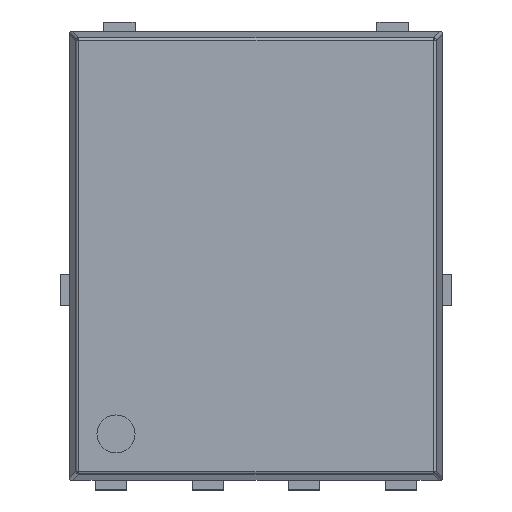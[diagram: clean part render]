
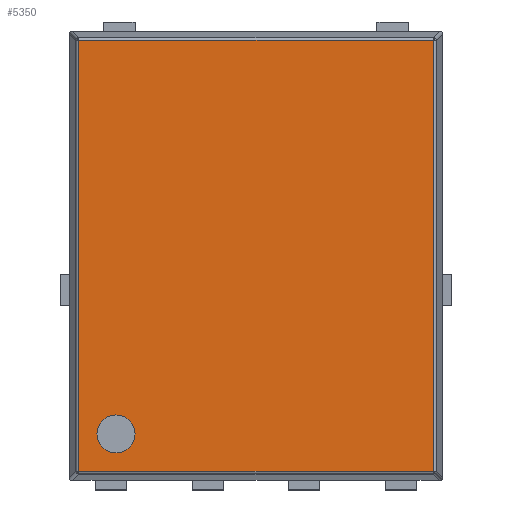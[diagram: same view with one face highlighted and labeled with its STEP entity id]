
A CAD part, top view. The second image highlights one B-rep face of the part: STEP entity #5350.
In plain terms, the highlighted planar face has unit normal (0, 0, 1).
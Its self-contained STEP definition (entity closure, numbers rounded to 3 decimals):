
#32 = DIRECTION ( 'NONE',  ( 1., 0., 0. ) ) ;
#551 = LINE ( 'NONE', #5649, #5530 ) ;
#681 = VECTOR ( 'NONE', #5651, 1000. ) ;
#1210 = CARTESIAN_POINT ( 'NONE',  ( 0., 2.332, 1.1 ) ) ;
#1633 = VECTOR ( 'NONE', #5858, 1000. ) ;
#1683 = DIRECTION ( 'NONE',  ( 1., 0., 0. ) ) ;
#1722 = DIRECTION ( 'NONE',  ( 0., 0., 1. ) ) ;
#1746 = LINE ( 'NONE', #1210, #681 ) ;
#1843 = LINE ( 'NONE', #6393, #6030 ) ;
#1850 = ORIENTED_EDGE ( 'NONE', *, *, #7615, .T. ) ;
#2112 = VERTEX_POINT ( 'NONE', #3678 ) ;
#2448 = EDGE_CURVE ( 'NONE', #4940, #3165, #1746, .T. ) ;
#2651 = EDGE_CURVE ( 'NONE', #4813, #2112, #1843, .T. ) ;
#2796 = ORIENTED_EDGE ( 'NONE', *, *, #4420, .T. ) ;
#3029 = CARTESIAN_POINT ( 'NONE',  ( 0., 2.45, 1.1 ) ) ;
#3165 = VERTEX_POINT ( 'NONE', #8183 ) ;
#3645 = CARTESIAN_POINT ( 'NONE',  ( -2.832, -2.332, 1.1 ) ) ;
#3678 = CARTESIAN_POINT ( 'NONE',  ( 2.832, -2.332, 1.1 ) ) ;
#4392 = ORIENTED_EDGE ( 'NONE', *, *, #2651, .T. ) ;
#4420 = EDGE_CURVE ( 'NONE', #2112, #4940, #7736, .T. ) ;
#4518 = CARTESIAN_POINT ( 'NONE',  ( 2.832, 2.332, 1.1 ) ) ;
#4595 = PLANE ( 'NONE',  #4929 ) ;
#4752 = FACE_OUTER_BOUND ( 'NONE', #6398, .T. ) ;
#4813 = VERTEX_POINT ( 'NONE', #3645 ) ;
#4929 = AXIS2_PLACEMENT_3D ( 'NONE', #3029, #1722, #1683 ) ;
#4940 = VERTEX_POINT ( 'NONE', #4518 ) ;
#5133 = CARTESIAN_POINT ( 'NONE',  ( 2.832, 2.45, 1.1 ) ) ;
#5350 = ADVANCED_FACE ( 'NONE', ( #4752 ), #4595, .T. ) ;
#5530 = VECTOR ( 'NONE', #8182, 1000. ) ;
#5567 = ORIENTED_EDGE ( 'NONE', *, *, #2448, .T. ) ;
#5649 = CARTESIAN_POINT ( 'NONE',  ( -2.832, 2.45, 1.1 ) ) ;
#5651 = DIRECTION ( 'NONE',  ( -1., 0., 0. ) ) ;
#5858 = DIRECTION ( 'NONE',  ( 0., 1., 0. ) ) ;
#6030 = VECTOR ( 'NONE', #32, 1000. ) ;
#6393 = CARTESIAN_POINT ( 'NONE',  ( 0., -2.332, 1.1 ) ) ;
#6398 = EDGE_LOOP ( 'NONE', ( #5567, #1850, #4392, #2796 ) ) ;
#7615 = EDGE_CURVE ( 'NONE', #3165, #4813, #551, .T. ) ;
#7736 = LINE ( 'NONE', #5133, #1633 ) ;
#8182 = DIRECTION ( 'NONE',  ( 0., -1., 0. ) ) ;
#8183 = CARTESIAN_POINT ( 'NONE',  ( -2.832, 2.332, 1.1 ) ) ;
